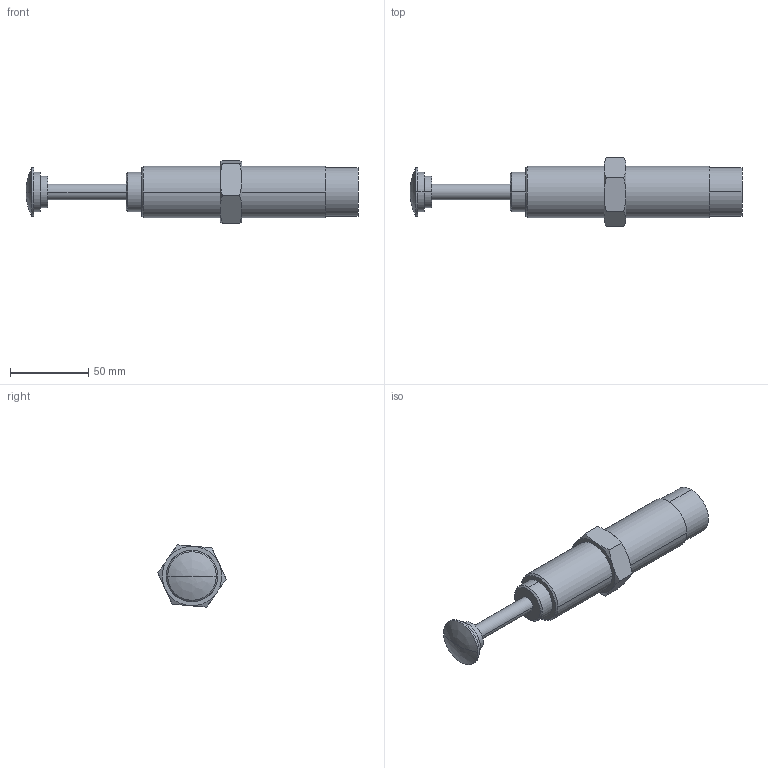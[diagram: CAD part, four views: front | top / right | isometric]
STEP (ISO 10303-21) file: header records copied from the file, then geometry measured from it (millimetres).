
FILE_DESCRIPTION (( 'STEP AP203' ), '1' );
FILE_NAME ('FSA-3350CD.STEP', '2016-03-17T07:48:39', ( 'Sam Lin' ), ( '' ), 'SwSTEP 2.0', 'SolidWorks 2013', '' );
FILE_SCHEMA (( 'CONFIG_CONTROL_DESIGN' ));
Length unit declared in the file: metre
Products named in the file (3): FSA-3350CD_1; M33x1.5-14mm(38)_1; FSA-3350CD
Assembly tree (2 placements, depth 2):
  FSA-3350CD
    FSA-3350CD_1
    M33x1.5-14mm(38)_1
Bounding box: 212 x 43.7 x 39.82 mm (x, y, z)
Volume: 136118.6 mm3; surface area: 24273.6 mm2
Topology: 2 solids, 2 shells, 49 faces, 108 edges, 67 vertices
Faces by surface type: cylinder 16, plane 15, bspline 14, cone 4
Entity records: 1943 total; most frequent: CARTESIAN_POINT 665, ORIENTED_EDGE 212, DIRECTION 194, EDGE_CURVE 106, AXIS2_PLACEMENT_3D 84, VERTEX_POINT 67, EDGE_LOOP 57, FACE_OUTER_BOUND 49
